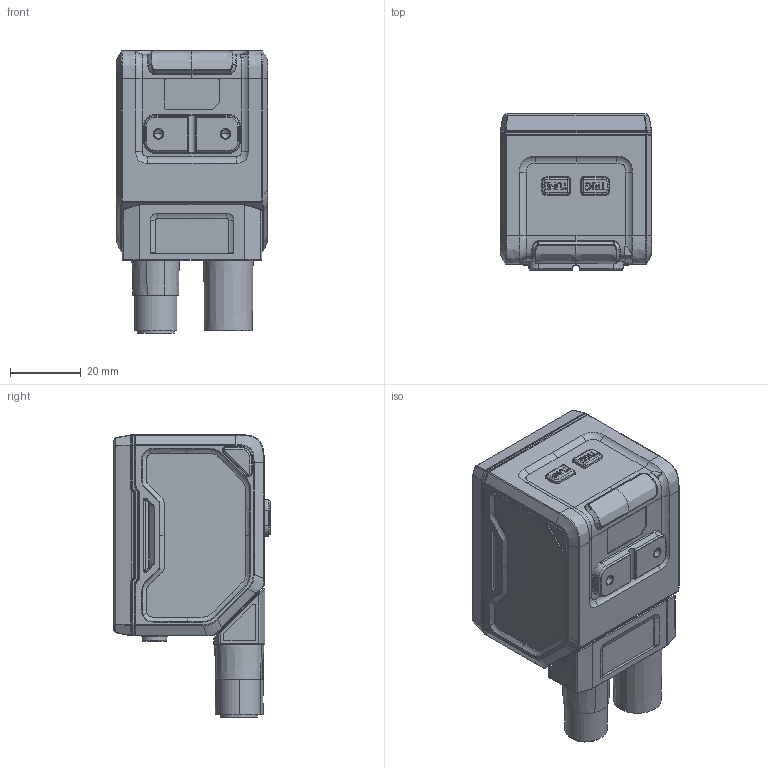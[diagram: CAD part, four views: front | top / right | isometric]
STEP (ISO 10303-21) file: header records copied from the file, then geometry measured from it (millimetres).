
FILE_DESCRIPTION((''),'2;1');
FILE_NAME('DE-13-001365','2023-08-10T14:25:28',('qinyangfan'),(''),'CREO PARAMETRIC BY PTC INC, 2020044','CREO PARAMETRIC BY PTC INC, 2020044','');
FILE_SCHEMA(('CONFIG_CONTROL_DESIGN'));
Products named in the file (1): DE-13-001365
Bounding box: 43.04 x 44.3 x 80.11 mm (x, y, z)
Volume: 100272.5 mm3; surface area: 28508.7 mm2
Topology: 4 solids, 33 shells, 2235 faces, 5804 edges, 3638 vertices
Faces by surface type: plane 807, cylinder 728, cone 278, bspline 201, extrusion 101, torus 94, sphere 24, revolution 2
Entity records: 97413 total; most frequent: CARTESIAN_POINT 44163, ORIENTED_EDGE 11428, DIRECTION 10662, EDGE_CURVE 5744, AXIS2_PLACEMENT_3D 3869, VERTEX_POINT 3637, VECTOR 2922, LINE 2821
